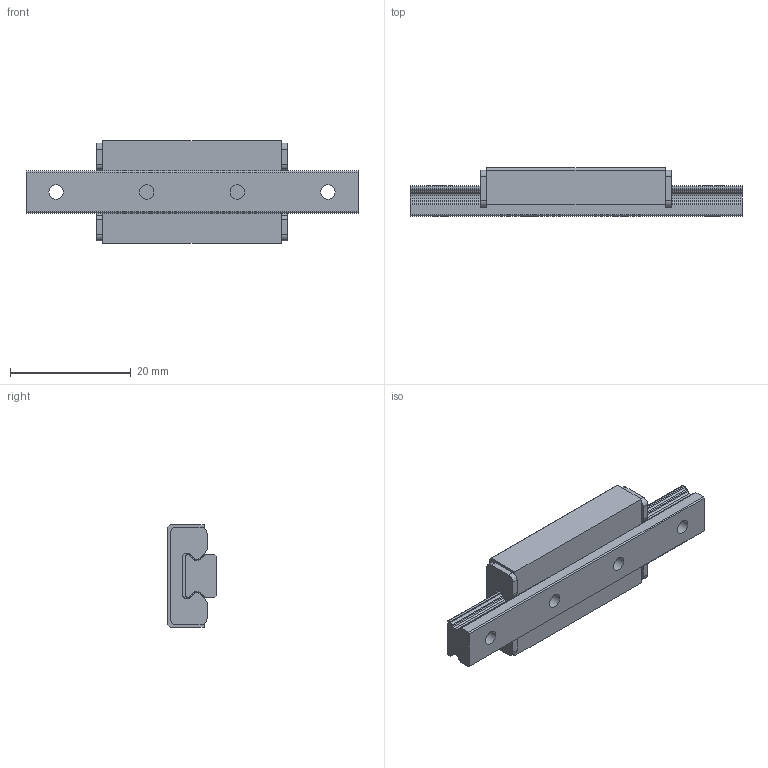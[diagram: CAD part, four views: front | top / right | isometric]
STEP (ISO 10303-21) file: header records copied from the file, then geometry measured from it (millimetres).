
FILE_DESCRIPTION(/* description */ ('STEP AP203'),/* implementation_level */ '2;1');
FILE_NAME(/* name */ 'EPF7M16-55LM_G5_0_11-7_1',/* time_stamp */ '2024-05-21T04:12:42+02:00',/* author */ ('License CC BY-ND 4.0'),/* organization */ ('CADENAS'),/* preprocessor_version */ 'ST-DEVELOPER v19.3',/* originating_system */ 'PARTsolutions',/* authorisation */ ' ');
FILE_SCHEMA (('CONFIG_CONTROL_DESIGN'));
Length unit declared in the file: millimetre
Products named in the file (3): EPF7M16-55LM_G5_0_11-7_1; EPF7 M555 R Track; Slider--EPF7 M-5-11
Assembly tree (2 placements, depth 2):
  EPF7M16-55LM_G5_0_11-7_1
    EPF7 M555 R Track
    Slider--EPF7 M-5-11
Bounding box: 55 x 8 x 17 mm (x, y, z)
Volume: 4112.9 mm3; surface area: 3539.5 mm2
Topology: 2 solids, 2 shells, 149 faces, 414 edges, 273 vertices
Faces by surface type: plane 70, cylinder 69, cone 10
Full cylindrical faces by diameter (mm): 1.567 x4, 2.4 x4, 4.2 x4, 5 x1
Entity records: 4683 total; most frequent: DIRECTION 830, CARTESIAN_POINT 794, ORIENTED_EDGE 756, EDGE_CURVE 378, AXIS2_PLACEMENT_3D 300, VERTEX_POINT 264, LINE 230, VECTOR 230
